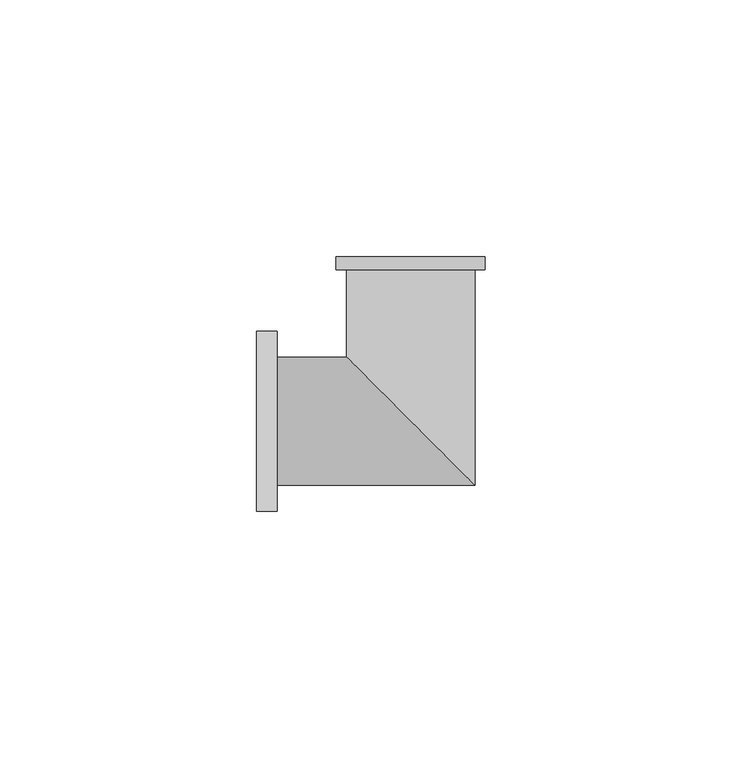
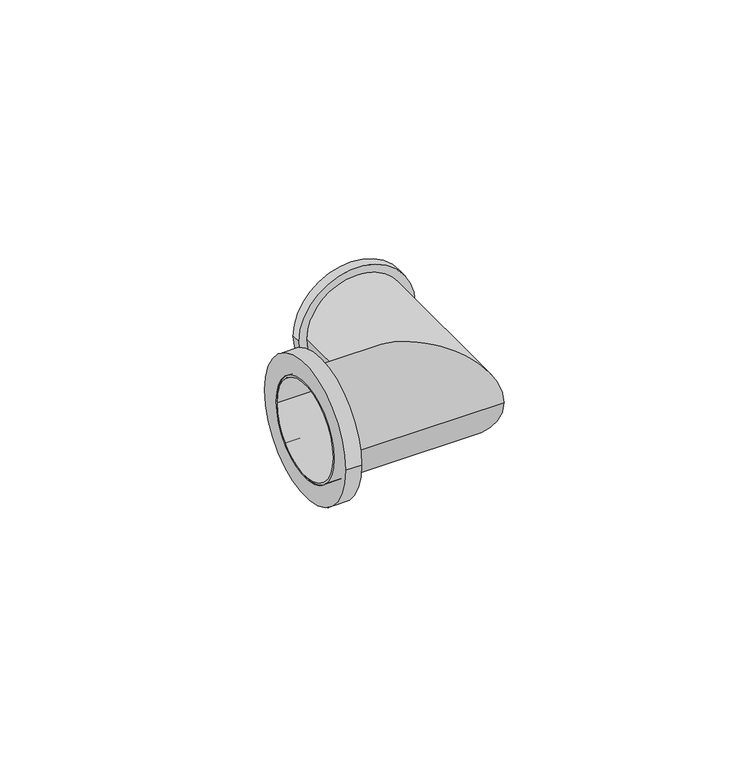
"""IFC4 building model written with IfcOpenShell, lengths in millimetres: pipe fitting geometry, БИР ПЕКС_НПР_Угольник_Резьба_Внутренняя : Угольник с внутренней резьбой."""

from ifc_helpers import new_model, si_unit, point, frame, origin, origin_2d, place, context, project, spatial, polyline, circle_curve, ellipse_curve, trimmed, segment, composite_curve, outline, extrude, source, transform, mapped, element, save
from ifc_brep_helpers import plane_surface, cylinder_surface, revolved_surface, advanced_brep


def pipe_fitting_5ad5e90c(model_context):
    return source(origin(), model_context, "Body", "SolidModel", [
        extrude(outline(composite_curve([segment(trimmed(circle_curve(origin_2d(), 17.5), [point((-17.5, 0.0))], [point((17.5, 0.0))], False, "CARTESIAN"), True, "CONTINUOUS"), segment(trimmed(circle_curve(origin_2d(), 17.5), [point((17.5, 0.0))], [point((-17.5, 0.0))], False, "CARTESIAN"), True, "CONTINUOUS")], self_intersect=False), holes=[composite_curve([segment(trimmed(circle_curve(origin_2d(), 12.5), [point((-12.5, 0.0))], [point((12.5, 0.0))], True, "CARTESIAN"), True, "CONTINUOUS"), segment(trimmed(circle_curve(origin_2d(), 12.5), [point((12.5, 0.0))], [point((-12.5, 0.0))], True, "CARTESIAN"), True, "CONTINUOUS")], self_intersect=False)]), frame((-30.0, 0.0, 0.0), z_axis=(1.0, 0.0, 0.0), x_axis=(0.0, 1.0, 0.0)), (0.0, 0.0, 1.0), 4.0),
        advanced_brep(
        [(-30.0, -12.5, 0.0), (-30.0, 12.5, 0.0), (-30.0, -12.0, 0.0), (-30.0, 12.0, 0.0), (12.5, -12.5, 0.0), (-12.5, 12.5, 0.0), (-14.5, 32.0, 0.0), (14.5, 32.0, 0.0), (12.0, 32.0, 0.0), (-12.0, 32.0, 0.0), (12.5, 29.5, 0.0), (-12.5, 29.5, 0.0), (-14.5, 29.5, 0.0), (14.5, 29.5, 0.0), (12.0, -12.0, 0.0), (-12.0, 12.0, 0.0)],
        [
            (0, 1, circle_curve(frame((-30.0, 0.0, 0.0), z_axis=(-1.0, 0.0, 0.0), x_axis=(0.0, 1.0, 0.0)), 12.5)),
            (1, 0, circle_curve(frame((-30.0, 0.0, 0.0), z_axis=(-1.0, 0.0, 0.0), x_axis=(0.0, 1.0, 0.0)), 12.5)),
            (2, 3, circle_curve(frame((-30.0, 0.0, 0.0), z_axis=(1.0, 0.0, 0.0), x_axis=(0.0, 1.0, 0.0)), 12.0)),
            (3, 2, circle_curve(frame((-30.0, 0.0, 0.0), z_axis=(1.0, 0.0, 0.0), x_axis=(0.0, 1.0, 0.0)), 12.0)),
            (0, 4),
            (4, 5, ellipse_curve(frame((0.0, 0.0, 0.0), z_axis=(-0.7071067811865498, -0.7071067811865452, 0.0), x_axis=(-0.7071067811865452, 0.7071067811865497, 0.0)), 17.6776695, 12.5)),
            (5, 1),
            (5, 4, ellipse_curve(frame((0.0, 0.0, 0.0), z_axis=(-0.7071067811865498, -0.7071067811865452, 0.0), x_axis=(-0.7071067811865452, 0.7071067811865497, 0.0)), 17.6776695, 12.5)),
            (6, 7, circle_curve(frame((0.0, 32.0, 0.0), z_axis=(0.0, 1.0, 0.0), x_axis=(1.0, 0.0, 0.0)), 14.5)),
            (7, 6, circle_curve(frame((0.0, 32.0, 0.0), z_axis=(0.0, 1.0, 0.0), x_axis=(1.0, 0.0, 0.0)), 14.5)),
            (8, 9, circle_curve(frame((0.0, 32.0, 0.0), z_axis=(0.0, -1.0, 0.0), x_axis=(-1.0, 0.0, 0.0)), 12.0)),
            (9, 8, circle_curve(frame((0.0, 32.0, 0.0), z_axis=(0.0, -1.0, 0.0), x_axis=(-1.0, 0.0, 0.0)), 12.0)),
            (4, 10),
            (10, 11, circle_curve(frame((0.0, 29.5, 0.0), z_axis=(0.0, -1.0, 0.0), x_axis=(-1.0, 0.0, 0.0)), 12.5)),
            (11, 5),
            (11, 10, circle_curve(frame((0.0, 29.5, 0.0), z_axis=(0.0, -1.0, 0.0), x_axis=(-1.0, 0.0, 0.0)), 12.5)),
            (12, 13, circle_curve(frame((0.0, 29.5, 0.0), z_axis=(0.0, -1.0, 0.0), x_axis=(1.0, 0.0, 0.0)), 14.5)),
            (13, 12, circle_curve(frame((0.0, 29.5, 0.0), z_axis=(0.0, -1.0, 0.0), x_axis=(1.0, 0.0, 0.0)), 14.5)),
            (12, 6),
            (7, 13),
            (2, 14),
            (14, 15, ellipse_curve(frame((0.0, 0.0, 0.0), z_axis=(0.7071067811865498, 0.7071067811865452, 0.0), x_axis=(0.7071067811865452, -0.7071067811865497, 0.0)), 16.9705627, 12.0)),
            (15, 3),
            (15, 14, ellipse_curve(frame((0.0, 0.0, 0.0), z_axis=(0.7071067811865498, 0.7071067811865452, 0.0), x_axis=(0.7071067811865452, -0.7071067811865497, 0.0)), 16.9705627, 12.0)),
            (9, 15),
            (14, 8),
        ],
        [
            plane_surface(frame((-30.0, 0.0, 0.0), z_axis=(-1.0, 0.0, 0.0), x_axis=(0.0, 0.0, 1.0))),
            cylinder_surface(frame((-30.0, 0.0, 0.0), z_axis=(-1.0, 0.0, 0.0), x_axis=(0.0, 1.0, 0.0)), 12.5),
            plane_surface(frame((0.0, 32.0, 0.0), z_axis=(0.0, 1.0, 0.0), x_axis=(0.0, 0.0, 1.0))),
            cylinder_surface(frame((0.0, 0.0, 0.0), z_axis=(0.0, -1.0, 0.0), x_axis=(-1.0, 0.0, 0.0)), 12.5),
            plane_surface(frame((14.5, 29.5, 0.0), z_axis=(0.0, -1.0, 0.0), x_axis=(0.0, 0.0, 1.0))),
            cylinder_surface(frame((0.0, 32.0, 0.0), z_axis=(0.0, -1.0, 0.0), x_axis=(1.0, 0.0, 0.0)), 14.5),
            revolved_surface(polyline([(12.0, 12.0, 0.0), (-30.0, 12.0, 0.0)]), (-30.0, 0.0, 0.0), (1.0, 0.0, 0.0)),
            revolved_surface(polyline([(-12.0, 32.0, 0.0), (-12.0, -12.0, 0.0)]), (0.0, 0.0, 0.0), (0.0, 1.0, 0.0)),
        ],
        [
            (0, [[1, 2], [3, 4]]),
            (1, [[-1, 5, 6, 7]]),
            (1, [[-2, -7, 8, -5]]),
            (2, [[9, 10], [11, 12]]),
            (3, [[-6, 13, 14, 15]]),
            (3, [[-8, -15, 16, -13]]),
            (4, [[17, 18], [-14, -16]]),
            (5, [[-17, 19, -10, 20]]),
            (5, [[-18, -20, -9, -19]]),
            (6, [[-3, 21, 22, 23]]),
            (6, [[-4, -23, 24, -21]]),
            (7, [[-12, 25, -22, 26]]),
            (7, [[-11, -26, -24, -25]]),
        ],
    ),
    ])


if __name__ == "__main__":
    model = new_model("IFC4")
    model_context = context("Model", 3, world=origin())
    ifc_project = project(units=[si_unit("LENGTHUNIT", "METRE", prefix="MILLI")], contexts=[model_context])
    site = spatial("IfcSite", under=ifc_project)
    building = spatial("IfcBuilding", under=site)
    placement = place(None, origin())
    pipe_fitting_shape = pipe_fitting_5ad5e90c(model_context)
    element("IfcPipeFitting", 1, ObjectType="БИР ПЕКС_НПР_Угольник_Резьба_Внутренняя : Угольник с внутренней резьбой", at=placement, inside=building, context=model_context, shape_type="MappedRepresentation", body=[
        mapped(pipe_fitting_shape, transform((0.0, 0.0, 0.0), x_axis=(1.0, 0.0, 0.0), y_axis=(0.0, 1.0, 0.0), z_axis=(0.0, 0.0, 1.0))),
    ])
    save(model, "model.ifc")
